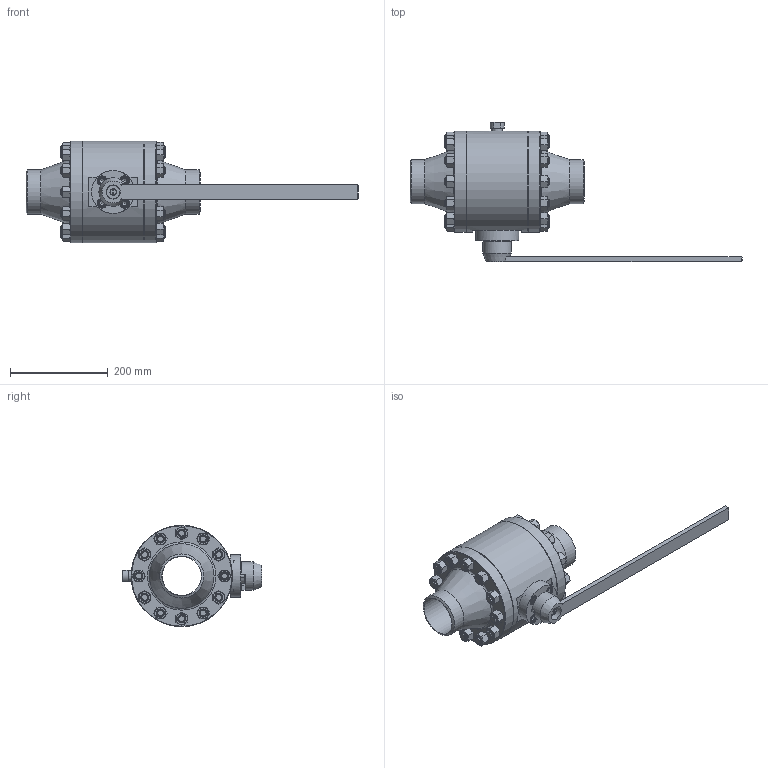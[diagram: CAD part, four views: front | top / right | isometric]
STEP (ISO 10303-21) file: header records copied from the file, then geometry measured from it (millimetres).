
FILE_DESCRIPTION(('STEP AP203'), '1');
FILE_NAME('ZARDP 080.063.40.P.stp', '2013-12-06T11:46:42', ('Ñèçîâ À.Í.'), ('ÎÎÎ "ÈÊ Ýíåðïðåä-ßðäîñ"'), 'ASCON STEP Converter 1.3', 'Kompas 3D', '');
FILE_SCHEMA(('CONFIG_CONTROL_DESIGN','SUPPORT_RESOURCE_SCHEMA'));
Length unit declared in the file: millimetre
Products named in the file (1): 288
Bounding box: 678 x 285 x 207 mm (x, y, z)
Volume: 4513720.6 mm3; surface area: 606839.7 mm2
Topology: 1 solids, 30 shells, 820 faces, 1718 edges, 1081 vertices
Faces by surface type: plane 449, cone 183, cylinder 178, torus 10
Full cylindrical faces by diameter (mm): 8 x3, 8.5 x1, 10 x4, 12 x4, 13 x5, 16 x72, 18 x28, 20 x4, 20.6 x1, 23.4 x1, 25 x1, 27 x1, 29 x1, 29.8 x1, 32 x1, 39 x1, 40.5 x1, 58 x1, 80 x2, 88 x1, 90 x2, 98 x2, 122 x2, 135.4 x2, 145 x3, 207 x3
Entity records: 36467 total; most frequent: CARTESIAN_POINT 19002, DIRECTION 3653, ORIENTED_EDGE 3428, EDGE_CURVE 1714, AXIS2_PLACEMENT_3D 1485, VERTEX_POINT 1081, EDGE_LOOP 971, ADVANCED_FACE 820
